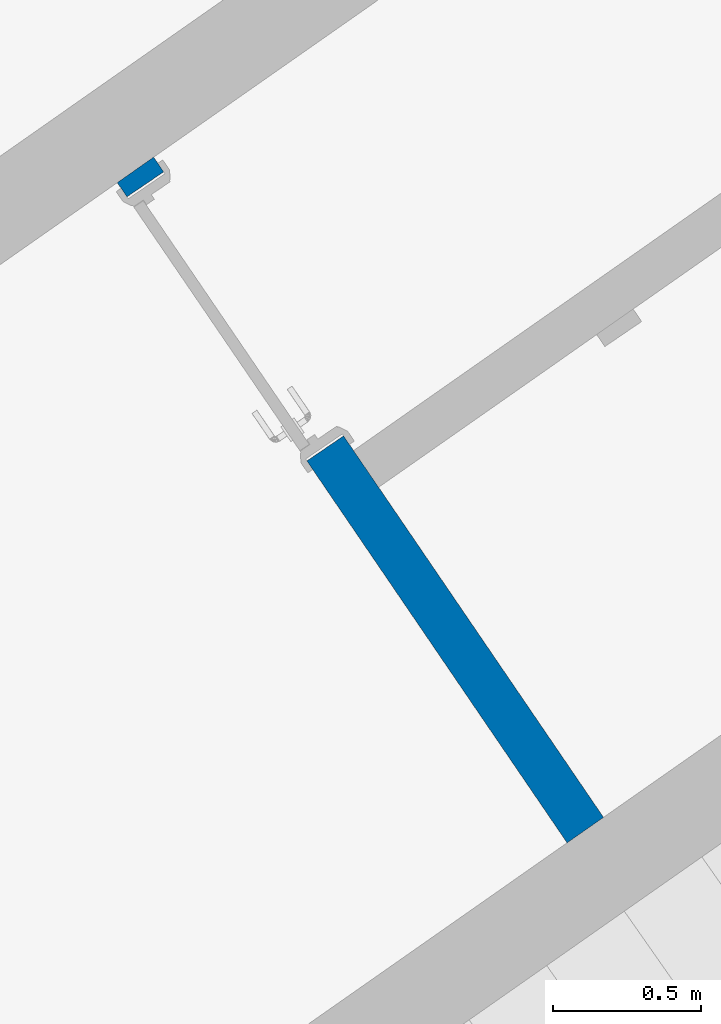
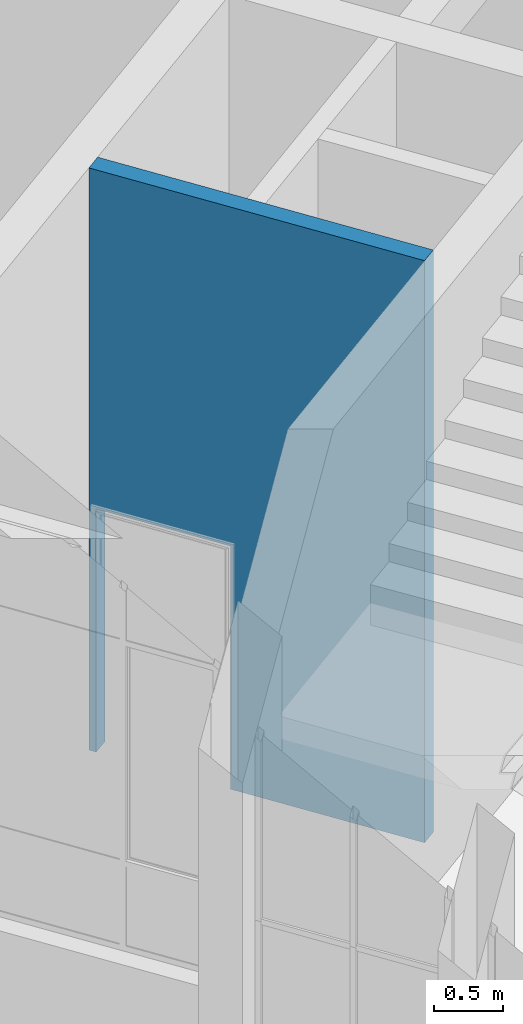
# One storey, part 68 of 157: 1 wall, 1 opening.
"""IFC2X3 building model written with IfcOpenShell, lengths in millimetres."""

from ifc_helpers import new_model, entity, si_unit, converted_unit, derived_unit, direction, frame, frame_2d, origin, place, context, subcontext, project, spatial, polyline, rectangle, outline, extrude, material, layer, layer_set, layer_usage, type_object, element, save


model = new_model("IFC2X3")

# Units and contexts
model_context = context("Model", 3, precision=0.01, world=origin(), true_north=direction((6.123031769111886e-17, 1.0)))
body_context = subcontext(model_context, "Body", "Model", "MODEL_VIEW")
ifc_project = project(units=[si_unit("LENGTHUNIT", "METRE", prefix="MILLI"), si_unit("AREAUNIT", "SQUARE_METRE"), si_unit("VOLUMEUNIT", "CUBIC_METRE"), converted_unit("PLANEANGLEUNIT", "DEGREE", entity("IfcRatioMeasure", 0.017453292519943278), si_unit("PLANEANGLEUNIT", "RADIAN"), dimensions=[0, 0, 0, 0, 0, 0, 0]), si_unit("MASSUNIT", "GRAM", prefix="KILO"), derived_unit("MASSDENSITYUNIT", [(si_unit("MASSUNIT", "GRAM", prefix="KILO"), 1), (si_unit("LENGTHUNIT", "METRE"), -3)]), derived_unit("MOMENTOFINERTIAUNIT", [(si_unit("LENGTHUNIT", "METRE"), 4)]), si_unit("TIMEUNIT", "SECOND"), si_unit("FREQUENCYUNIT", "HERTZ"), si_unit("THERMODYNAMICTEMPERATUREUNIT", "DEGREE_CELSIUS"), derived_unit("THERMALTRANSMITTANCEUNIT", [(si_unit("MASSUNIT", "GRAM", prefix="KILO"), 1), (si_unit("THERMODYNAMICTEMPERATUREUNIT", "KELVIN"), -1), (si_unit("TIMEUNIT", "SECOND"), -3)]), derived_unit("THERMALCONDUCTANCEUNIT", [(si_unit("MASSUNIT", "GRAM", prefix="KILO"), 1), (si_unit("LENGTHUNIT", "METRE"), 1), (si_unit("THERMODYNAMICTEMPERATUREUNIT", "KELVIN"), -1), (si_unit("TIMEUNIT", "SECOND"), -3)]), derived_unit("VOLUMETRICFLOWRATEUNIT", [(si_unit("LENGTHUNIT", "METRE"), 3), (si_unit("TIMEUNIT", "SECOND"), -1)]), derived_unit("MASSFLOWRATEUNIT", [(si_unit("MASSUNIT", "GRAM", prefix="KILO"), 1), (si_unit("TIMEUNIT", "SECOND"), -1)]), derived_unit("ROTATIONALFREQUENCYUNIT", [(si_unit("TIMEUNIT", "SECOND"), -1)]), si_unit("ELECTRICCURRENTUNIT", "AMPERE"), si_unit("ELECTRICVOLTAGEUNIT", "VOLT"), si_unit("POWERUNIT", "WATT"), converted_unit("FORCEUNIT", "KIP", entity("IfcRatioMeasure", 2.088543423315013e-05), si_unit("FORCEUNIT", "NEWTON"), dimensions=[1, 1, -2, 0, 0, 0, 0]), si_unit("ILLUMINANCEUNIT", "LUX"), si_unit("LUMINOUSFLUXUNIT", "LUMEN"), si_unit("LUMINOUSINTENSITYUNIT", "CANDELA"), derived_unit("USERDEFINED", [(si_unit("MASSUNIT", "GRAM", prefix="KILO"), -1), (si_unit("LENGTHUNIT", "METRE"), -2), (si_unit("TIMEUNIT", "SECOND"), 3), (si_unit("LUMINOUSFLUXUNIT", "LUMEN"), 1)]), derived_unit("USERDEFINED", [(si_unit("MASSUNIT", "GRAM", prefix="KILO"), 1), (si_unit("LENGTHUNIT", "METRE"), 3), (si_unit("TIMEUNIT", "SECOND"), -3), (si_unit("ELECTRICCURRENTUNIT", "AMPERE"), -2)]), derived_unit("USERDEFINED", [(si_unit("LENGTHUNIT", "METRE"), 2), (si_unit("TIMEUNIT", "SECOND"), -2)]), derived_unit("SOUNDPOWERUNIT", [(si_unit("MASSUNIT", "GRAM", prefix="KILO"), 1), (si_unit("LENGTHUNIT", "METRE"), 2), (si_unit("TIMEUNIT", "SECOND"), -3)]), derived_unit("SOUNDPRESSUREUNIT", [(si_unit("MASSUNIT", "GRAM", prefix="KILO"), 1), (si_unit("LENGTHUNIT", "METRE"), -1), (si_unit("TIMEUNIT", "SECOND"), -2)]), derived_unit("LINEARVELOCITYUNIT", [(si_unit("LENGTHUNIT", "METRE"), 1), (si_unit("TIMEUNIT", "SECOND"), -1)]), si_unit("PRESSUREUNIT", "PASCAL"), derived_unit("USERDEFINED", [(si_unit("LENGTHUNIT", "METRE"), -2), (si_unit("MASSUNIT", "GRAM", prefix="KILO"), 1), (si_unit("TIMEUNIT", "SECOND"), -2)]), derived_unit("LINEARFORCEUNIT", [(si_unit("MASSUNIT", "GRAM", prefix="KILO"), 1), (si_unit("LENGTHUNIT", "METRE"), 1), (si_unit("TIMEUNIT", "SECOND"), -2), (si_unit("LENGTHUNIT", "METRE"), -1)]), derived_unit("PLANARFORCEUNIT", [(si_unit("MASSUNIT", "GRAM", prefix="KILO"), 1), (si_unit("LENGTHUNIT", "METRE"), 1), (si_unit("TIMEUNIT", "SECOND"), -2), (si_unit("LENGTHUNIT", "METRE"), -2)]), derived_unit("SPECIFICHEATCAPACITYUNIT", [(si_unit("LENGTHUNIT", "METRE"), 2), (si_unit("TIMEUNIT", "SECOND"), -2), (si_unit("THERMODYNAMICTEMPERATUREUNIT", "KELVIN"), -1)]), derived_unit("VAPORPERMEABILITYUNIT", [(si_unit("TIMEUNIT", "SECOND"), 1), (si_unit("LENGTHUNIT", "METRE"), -1)]), derived_unit("DYNAMICVISCOSITYUNIT", [(si_unit("MASSUNIT", "GRAM", prefix="KILO"), 1), (si_unit("LENGTHUNIT", "METRE"), -1), (si_unit("TIMEUNIT", "SECOND"), -1)]), derived_unit("THERMALEXPANSIONCOEFFICIENTUNIT", [(si_unit("THERMODYNAMICTEMPERATUREUNIT", "KELVIN"), -1)])], contexts=[model_context])

# Site, building, storey
site_placement = place(None, frame((0.0, 0.0, 0.0), z_axis=(0.0, 0.0, 1.0), x_axis=(0.8191520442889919, 0.5735764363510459, 0.0)))
site = spatial("IfcSite", under=ifc_project, at=site_placement, Name="Default", CompositionType="ELEMENT")
building_placement = place(site_placement, origin())
building = spatial("IfcBuilding", under=site, at=building_placement, CompositionType="ELEMENT")
storey_placement = place(building_placement, origin())
storey = spatial("IfcBuildingStorey", under=building, at=storey_placement, Name="1.EG +0.00", CompositionType="ELEMENT", Elevation=-4.331468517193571e-12)

# Wall, opening
ifc_material = material(Name="Analytical Wall Surface_CJC")
ifc_layer = layer(ifc_material, 150.0)
ifc_layer_set = layer_set([ifc_layer], Name="Basic Wall:Wand_Innen_15")
ifc_layer_usage = layer_usage(ifc_layer_set, "AXIS2", "NEGATIVE", 75.0)
wall_type = type_object("IfcWallType", Name="Basic Wall:Wand_Innen_15", PredefinedType="STANDARD", material=ifc_layer_set)
wall_placement = place(storey_placement, frame((-219396.09699636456, 115845.40419527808, 0.0), z_axis=(0.0, 0.0, 1.0), x_axis=(0.012729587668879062, 0.9999189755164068, 0.0)))
wall = element("IfcWallStandardCase", 1, at=wall_placement, inside=storey, type_object=wall_type, material=ifc_layer_usage, Name="Basic Wall:Wand_Innen_15", ObjectType="Basic Wall:Wand_Innen_15", context=body_context, shape_type="SweptSolid", body=[
    extrude(outline(polyline([(1.909592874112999, -75.0), (1352.0189847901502, -75.0), (1502.0311394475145, -75.0), (2702.128376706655, -75.0), (2700.2187838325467, 75.0), (0.0, 75.0), (1.909592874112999, -75.0)])), origin(), (0.0, 0.0, 1.0), 5150.000000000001),
])
opening_placement = place(wall_placement, frame((1562.005979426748, -75.0, 0.0)))
element("IfcOpeningElement", 2, at=opening_placement, cuts=wall, Name="Doors_IntSgl:100x210:1", ObjectType="Opening", context=body_context, shape_type="SweptSolid", body=[
    extrude(rectangle(XDim=2150.000000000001, YDim=1079.9999999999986, at=frame_2d((1075.0000000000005, 539.9999999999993), x_axis=(1.0, 0.0))), frame((0.0, 0.0, 0.0), z_axis=(0.0, 1.0, 0.0), x_axis=(0.0, 0.0, 1.0)), (0.0, 0.0, 1.0), 149.99999999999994),
])

save(model, "model.ifc")
